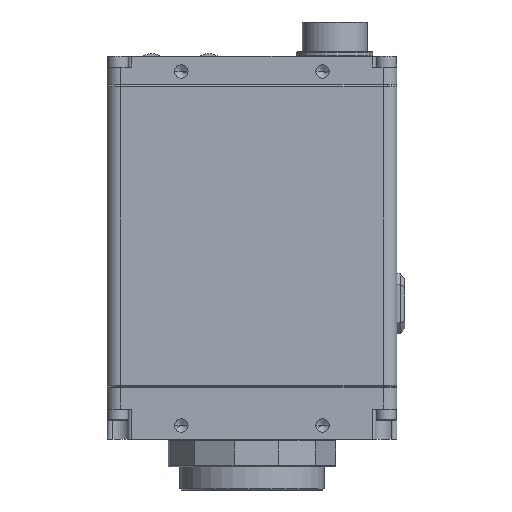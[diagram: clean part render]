
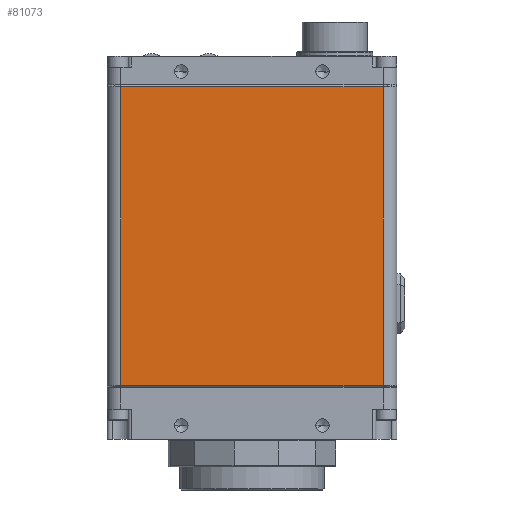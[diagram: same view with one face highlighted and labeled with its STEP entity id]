
A CAD part, front view. The second image highlights one B-rep face of the part: STEP entity #81073.
In plain terms, the highlighted planar face has unit normal (0, -1, 0) as drawn and (0, 1, 0) by its records, which use the part's own axes.
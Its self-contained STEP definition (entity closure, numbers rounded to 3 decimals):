
#8085 = VECTOR ( 'NONE', #133057, 1000. ) ;
#10161 = VERTEX_POINT ( 'NONE', #137521 ) ;
#11009 = VERTEX_POINT ( 'NONE', #37064 ) ;
#13053 = EDGE_LOOP ( 'NONE', ( #20143, #19467, #15166, #97307 ) ) ;
#15166 = ORIENTED_EDGE ( 'NONE', *, *, #133391, .F. ) ;
#19467 = ORIENTED_EDGE ( 'NONE', *, *, #135082, .F. ) ;
#20143 = ORIENTED_EDGE ( 'NONE', *, *, #136469, .F. ) ;
#21310 = AXIS2_PLACEMENT_3D ( 'NONE', #43360, #43213, #43172 ) ;
#30741 = CARTESIAN_POINT ( 'NONE',  ( 24.13, 16.51, 5.944 ) ) ;
#32950 = LINE ( 'NONE', #168741, #112855 ) ;
#37064 = CARTESIAN_POINT ( 'NONE',  ( -24.13, 16.51, 60.96 ) ) ;
#37942 = CARTESIAN_POINT ( 'NONE',  ( 24.13, 16.51, 60.96 ) ) ;
#43172 = DIRECTION ( 'NONE',  ( 1., 0., 0. ) ) ;
#43213 = DIRECTION ( 'NONE',  ( 0., -1., 0. ) ) ;
#43360 = CARTESIAN_POINT ( 'NONE',  ( -26.67, 16.51, 61.214 ) ) ;
#44496 = PLANE ( 'NONE',  #21310 ) ;
#72703 = VECTOR ( 'NONE', #144415, 1000. ) ;
#81073 = ADVANCED_FACE ( 'NONE', ( #128915 ), #44496, .F. ) ;
#97307 = ORIENTED_EDGE ( 'NONE', *, *, #136736, .F. ) ;
#112855 = VECTOR ( 'NONE', #168579, 1000. ) ;
#114742 = DIRECTION ( 'NONE',  ( -1., 0., 0. ) ) ;
#114959 = CARTESIAN_POINT ( 'NONE',  ( -26.67, 16.51, 60.96 ) ) ;
#117318 = LINE ( 'NONE', #145679, #72703 ) ;
#127879 = VERTEX_POINT ( 'NONE', #30741 ) ;
#128915 = FACE_OUTER_BOUND ( 'NONE', #13053, .T. ) ;
#132880 = CARTESIAN_POINT ( 'NONE',  ( -24.13, 16.51, 61.214 ) ) ;
#133057 = DIRECTION ( 'NONE',  ( 0., 0., -1. ) ) ;
#133391 = EDGE_CURVE ( 'NONE', #166740, #11009, #141255, .T. ) ;
#135082 = EDGE_CURVE ( 'NONE', #11009, #10161, #162283, .T. ) ;
#136469 = EDGE_CURVE ( 'NONE', #10161, #127879, #32950, .T. ) ;
#136736 = EDGE_CURVE ( 'NONE', #127879, #166740, #117318, .T. ) ;
#137521 = CARTESIAN_POINT ( 'NONE',  ( -24.13, 16.51, 5.944 ) ) ;
#141255 = LINE ( 'NONE', #114959, #175273 ) ;
#144415 = DIRECTION ( 'NONE',  ( 0., 0., 1. ) ) ;
#145679 = CARTESIAN_POINT ( 'NONE',  ( 24.13, 16.51, 61.214 ) ) ;
#162283 = LINE ( 'NONE', #132880, #8085 ) ;
#166740 = VERTEX_POINT ( 'NONE', #37942 ) ;
#168579 = DIRECTION ( 'NONE',  ( 1., 0., 0. ) ) ;
#168741 = CARTESIAN_POINT ( 'NONE',  ( -26.67, 16.51, 5.944 ) ) ;
#175273 = VECTOR ( 'NONE', #114742, 1000. ) ;
